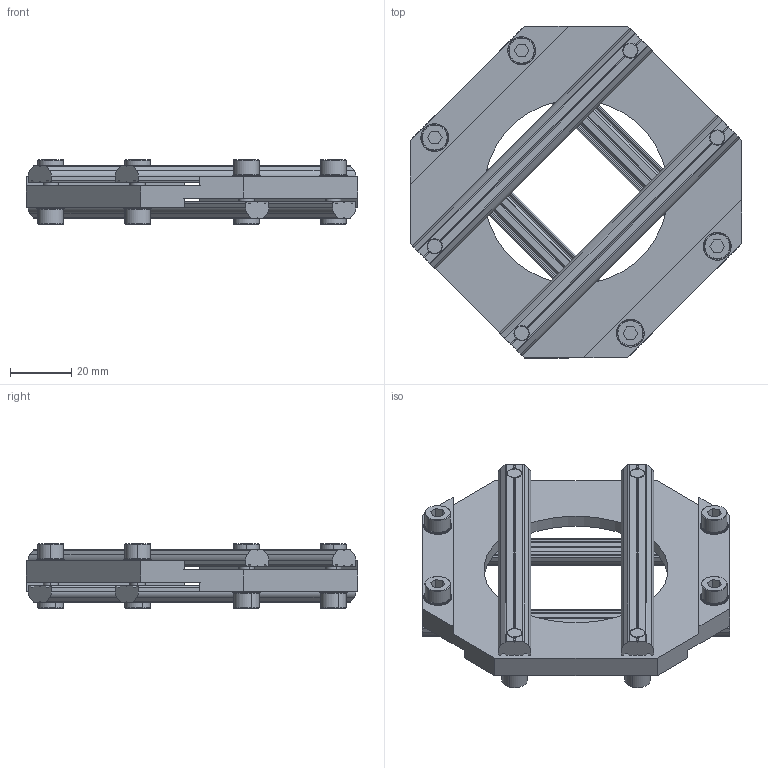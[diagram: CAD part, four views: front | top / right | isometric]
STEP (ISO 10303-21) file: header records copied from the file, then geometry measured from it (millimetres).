
FILE_DESCRIPTION (( 'STEP AP214' ), '1' );
FILE_NAME ('SMBA-8080.STEP', '2019-10-31T02:36:34', ( '微软用户' ), ( '微软中国' ), 'SwSTEP 2.0', 'SolidWorks 2016', '' );
FILE_SCHEMA (( 'AUTOMOTIVE_DESIGN' ));
Length unit declared in the file: millimetre
Products named in the file (5): PTN-M5P90; PTC-M5L14; PTS-M5; SMBA-8080
Assembly tree (21 placements, depth 2):
  SMBA-8080
    SMBA-8080
    PTS-M5  x8
    PTC-M5L14  x8
    PTN-M5P90  x4
Bounding box: 108 x 108 x 20.9 mm (x, y, z)
Volume: 53526 mm3; surface area: 34429.2 mm2
Topology: 21 solids, 21 shells, 1708 faces, 4998 edges, 3316 vertices
Faces by surface type: plane 1490, cylinder 170, cone 48
Entity records: 9516 total; most frequent: CARTESIAN_POINT 1804, DIRECTION 1602, ORIENTED_EDGE 1584, EDGE_CURVE 792, AXIS2_PLACEMENT_3D 548, VERTEX_POINT 526, VECTOR 506, LINE 506
